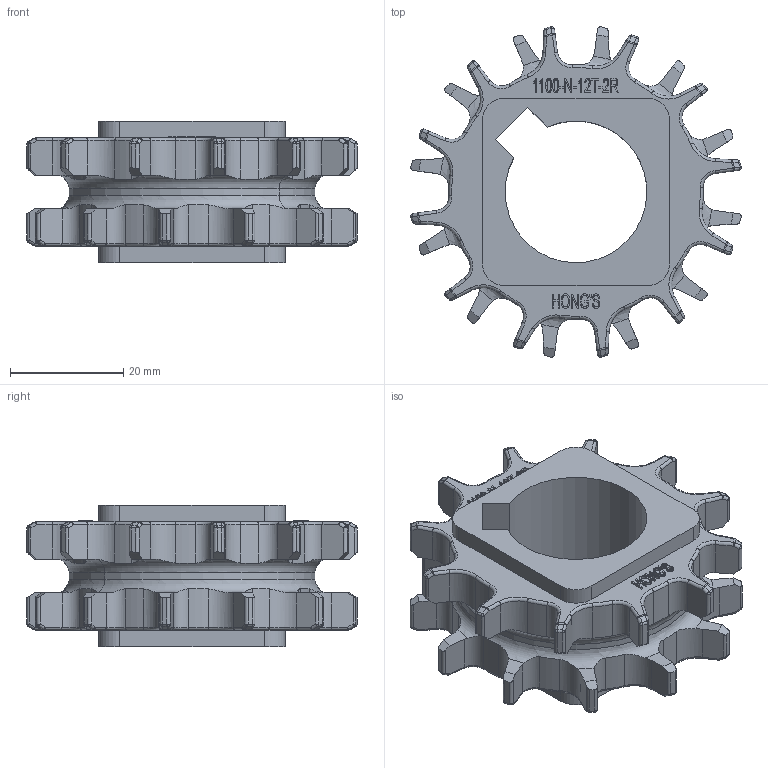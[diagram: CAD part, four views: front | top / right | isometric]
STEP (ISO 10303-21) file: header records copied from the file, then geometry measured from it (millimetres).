
FILE_DESCRIPTION(/* description */ (''),/* implementation_level */ '2;1');
FILE_NAME(/* name */ 'HS-1100-N-12T-2R.stp',/* time_stamp */ '2023-09-12T17:53:13+08:00',/* author */ (''),/* organization */ (''),/* preprocessor_version */ 'ST-DEVELOPER v15',/* originating_system */ 'SIEMENS PLM Software NX 8.5',/* authorisation */ '');
FILE_SCHEMA (('AP203_CONFIGURATION_CONTROLLED_3D_DESIGN_OF_MECHANICAL_PARTS_AND_ASSEMBLIES_MIM_LF { 1 0 10303 403 2 1 2}'));
Length unit declared in the file: millimetre
Products named in the file (1): Admi345C01E0lzxj
Bounding box: 58.28 x 58.28 x 24.89 mm (x, y, z)
Volume: 26043.7 mm3; surface area: 10195.2 mm2
Topology: 1 solids, 1 shells, 823 faces, 2048 edges, 1204 vertices
Faces by surface type: cylinder 275, plane 254, extrusion 98, sphere 96, torus 76, cone 24
Entity records: 25992 total; most frequent: CARTESIAN_POINT 7070, ORIENTED_EDGE 4000, DIRECTION 3784, EDGE_CURVE 2000, AXIS2_PLACEMENT_3D 1400, VERTEX_POINT 1204, VECTOR 984, LINE 886
